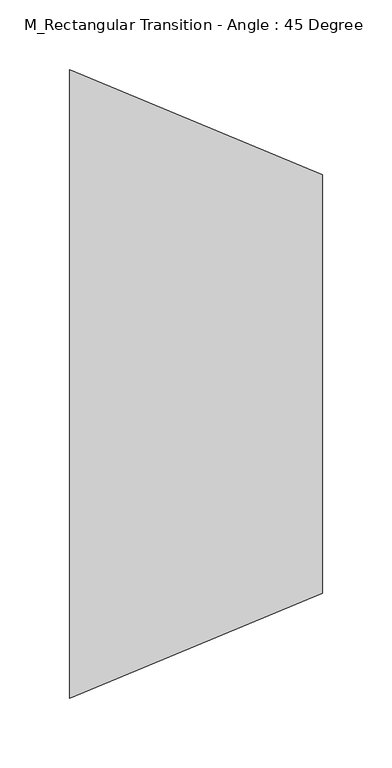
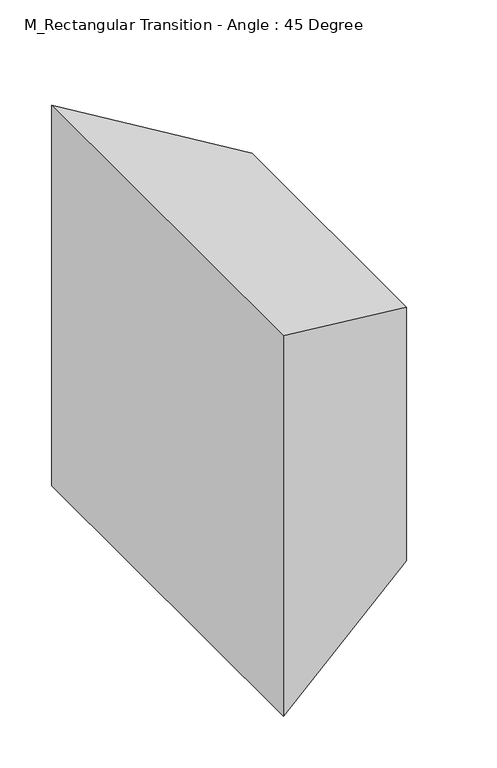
"""IFC4 building model written with IfcOpenShell, lengths in millimetres: duct fitting geometry, M_Rectangular Transition - Angle : 45 Degree."""

from ifc_helpers import new_model, si_unit, origin, place, context, project, spatial, faceted_brep, source, transform, mapped, element, save


def m_rectangular_transition_angle_45_degree_c90f7fb3(model_context):
    return source(origin(), model_context, "Body", "Brep", [
        faceted_brep([(181.0660172, -150.0, 150.0), (181.0660172, -150.0, -150.0), (181.0660172, 150.0, -150.0), (181.0660172, 150.0, 150.0), (0.0, -225.0, 225.0), (0.0, 225.0, 225.0), (0.0, 225.0, -225.0), (0.0, -225.0, -225.0)], [[[0, 1, 2, 3]], [[4, 5, 6, 7]], [[4, 7, 1, 0]], [[7, 6, 2, 1]], [[6, 5, 3, 2]], [[5, 4, 0, 3]]]),
        faceted_brep([(181.0660172, -150.0, 150.0), (181.0660172, -150.0, -150.0), (181.0660172, 150.0, -150.0), (181.0660172, 150.0, 150.0), (0.0, -225.0, 225.0), (0.0, 225.0, 225.0), (0.0, 225.0, -225.0), (0.0, -225.0, -225.0)], [[[0, 1, 2, 3]], [[4, 5, 6, 7]], [[4, 7, 1, 0]], [[7, 6, 2, 1]], [[6, 5, 3, 2]], [[5, 4, 0, 3]]]),
        faceted_brep([(181.0660172, -150.0, 150.0), (181.0660172, -150.0, -150.0), (181.0660172, 150.0, -150.0), (181.0660172, 150.0, 150.0), (0.0, -225.0, 225.0), (0.0, 225.0, 225.0), (0.0, 225.0, -225.0), (0.0, -225.0, -225.0)], [[[0, 1, 2, 3]], [[4, 5, 6, 7]], [[4, 7, 1, 0]], [[7, 6, 2, 1]], [[6, 5, 3, 2]], [[5, 4, 0, 3]]]),
    ])


if __name__ == "__main__":
    model = new_model("IFC4")
    model_context = context("Model", 3, world=origin())
    ifc_project = project(units=[si_unit("LENGTHUNIT", "METRE", prefix="MILLI")], contexts=[model_context])
    site = spatial("IfcSite", under=ifc_project)
    building = spatial("IfcBuilding", under=site)
    placement = place(None, origin())
    m_rectangular_transition_angle_45_degree_shape = m_rectangular_transition_angle_45_degree_c90f7fb3(model_context)
    element("IfcDuctFitting", 1, ObjectType="M_Rectangular Transition - Angle : 45 Degree", at=placement, inside=building, context=model_context, shape_type="MappedRepresentation", body=[
        mapped(m_rectangular_transition_angle_45_degree_shape, transform((0.0, 0.0, 0.0), x_axis=(1.0, 0.0, 0.0), y_axis=(0.0, 1.0, 0.0), z_axis=(0.0, 0.0, 1.0))),
    ])
    save(model, "model.ifc")
